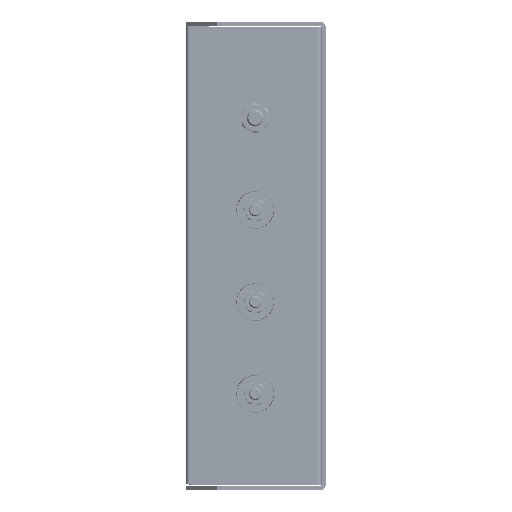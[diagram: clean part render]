
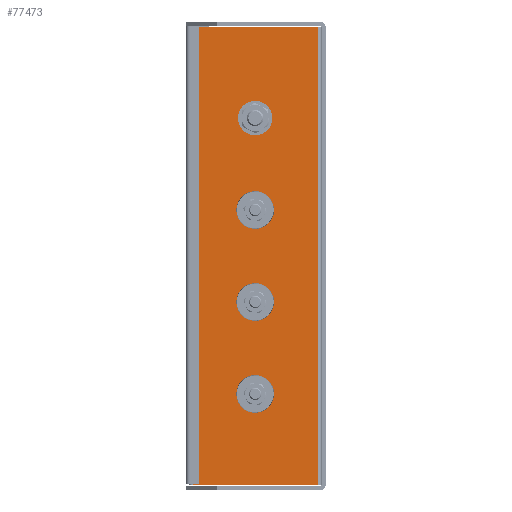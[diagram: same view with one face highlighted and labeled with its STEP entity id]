
A CAD part, left-side view. The second image highlights one B-rep face of the part: STEP entity #77473.
In plain terms, the highlighted planar face has unit normal (-1, 0, 0).
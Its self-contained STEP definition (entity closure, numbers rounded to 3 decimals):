
#73763=DIRECTION('',(0.,1.,0.));
#73764=VECTOR('',#73763,61.);
#73765=CARTESIAN_POINT('',(-30.2,-2.,-224.));
#73766=LINE('',#73765,#73764);
#74097=DIRECTION('',(0.,0.,-1.));
#74098=VECTOR('',#74097,224.);
#74099=CARTESIAN_POINT('',(-30.2,-2.,0.));
#74100=LINE('',#74099,#74098);
#74101=DIRECTION('',(0.,1.,0.));
#74102=VECTOR('',#74101,61.);
#74103=CARTESIAN_POINT('',(-30.2,-2.,0.));
#74104=LINE('',#74103,#74102);
#74105=CARTESIAN_POINT('',(-30.2,28.5,-89.5));
#74106=DIRECTION('',(1.,0.,0.));
#74107=DIRECTION('',(0.,0.,-1.));
#74108=AXIS2_PLACEMENT_3D('',#74105,#74106,#74107);
#74110=CARTESIAN_POINT('',(-30.2,28.5,-89.5));
#74111=DIRECTION('',(1.,0.,0.));
#74112=DIRECTION('',(0.,0.,1.));
#74113=AXIS2_PLACEMENT_3D('',#74110,#74111,#74112);
#74115=CARTESIAN_POINT('',(-30.2,28.5,-134.5));
#74116=DIRECTION('',(1.,0.,0.));
#74117=DIRECTION('',(0.,0.,-1.));
#74118=AXIS2_PLACEMENT_3D('',#74115,#74116,#74117);
#74120=CARTESIAN_POINT('',(-30.2,28.5,-134.5));
#74121=DIRECTION('',(1.,0.,0.));
#74122=DIRECTION('',(0.,0.,1.));
#74123=AXIS2_PLACEMENT_3D('',#74120,#74121,#74122);
#74125=CARTESIAN_POINT('',(-30.2,28.5,-179.5));
#74126=DIRECTION('',(1.,0.,0.));
#74127=DIRECTION('',(0.,0.,-1.));
#74128=AXIS2_PLACEMENT_3D('',#74125,#74126,#74127);
#74130=CARTESIAN_POINT('',(-30.2,28.5,-179.5));
#74131=DIRECTION('',(1.,0.,0.));
#74132=DIRECTION('',(0.,0.,1.));
#74133=AXIS2_PLACEMENT_3D('',#74130,#74131,#74132);
#74135=CARTESIAN_POINT('',(-30.2,28.5,-44.5));
#74136=DIRECTION('',(1.,0.,0.));
#74137=DIRECTION('',(0.,0.,-1.));
#74138=AXIS2_PLACEMENT_3D('',#74135,#74136,#74137);
#74140=CARTESIAN_POINT('',(-30.2,28.5,-44.5));
#74141=DIRECTION('',(1.,0.,0.));
#74142=DIRECTION('',(0.,0.,1.));
#74143=AXIS2_PLACEMENT_3D('',#74140,#74141,#74142);
#74145=DIRECTION('',(0.,0.,1.));
#74146=VECTOR('',#74145,224.);
#74147=CARTESIAN_POINT('',(-30.2,59.,-224.));
#74148=LINE('',#74147,#74146);
#74947=CARTESIAN_POINT('',(-30.2,28.5,-85.));
#74949=VERTEX_POINT('',#74947);
#74952=CARTESIAN_POINT('',(-30.2,28.5,-94.));
#74954=VERTEX_POINT('',#74952);
#74963=CARTESIAN_POINT('',(-30.2,28.5,-130.));
#74965=VERTEX_POINT('',#74963);
#74968=CARTESIAN_POINT('',(-30.2,28.5,-139.));
#74970=VERTEX_POINT('',#74968);
#74979=CARTESIAN_POINT('',(-30.2,28.5,-175.));
#74981=VERTEX_POINT('',#74979);
#74984=CARTESIAN_POINT('',(-30.2,28.5,-184.));
#74986=VERTEX_POINT('',#74984);
#75043=CARTESIAN_POINT('',(-30.2,28.5,-40.5));
#75045=VERTEX_POINT('',#75043);
#75048=CARTESIAN_POINT('',(-30.2,28.5,-48.5));
#75050=VERTEX_POINT('',#75048);
#75503=CARTESIAN_POINT('',(-30.2,-2.,0.));
#75504=VERTEX_POINT('',#75503);
#75505=CARTESIAN_POINT('',(-30.2,59.,0.));
#75506=VERTEX_POINT('',#75505);
#75507=CARTESIAN_POINT('',(-30.2,-2.,-224.));
#75508=VERTEX_POINT('',#75507);
#75509=CARTESIAN_POINT('',(-30.2,59.,-224.));
#75510=VERTEX_POINT('',#75509);
#77437=CARTESIAN_POINT('',(-30.2,28.5,-112.));
#77438=DIRECTION('',(1.,0.,0.));
#77439=DIRECTION('',(0.,-1.,0.));
#77440=AXIS2_PLACEMENT_3D('',#77437,#77438,#77439);
#77441=PLANE('',#77440);
#77442=ORIENTED_EDGE('',*,*,#77194,.F.);
#77443=ORIENTED_EDGE('',*,*,#77431,.T.);
#77444=ORIENTED_EDGE('',*,*,#77030,.T.);
#77446=ORIENTED_EDGE('',*,*,#77445,.T.);
#77447=EDGE_LOOP('',(#77442,#77443,#77444,#77446));
#77448=FACE_OUTER_BOUND('',#77447,.F.);
#77450=ORIENTED_EDGE('',*,*,#77449,.F.);
#77452=ORIENTED_EDGE('',*,*,#77451,.F.);
#77453=EDGE_LOOP('',(#77450,#77452));
#77454=FACE_BOUND('',#77453,.F.);
#77456=ORIENTED_EDGE('',*,*,#77455,.F.);
#77458=ORIENTED_EDGE('',*,*,#77457,.F.);
#77459=EDGE_LOOP('',(#77456,#77458));
#77460=FACE_BOUND('',#77459,.F.);
#77462=ORIENTED_EDGE('',*,*,#77461,.F.);
#77464=ORIENTED_EDGE('',*,*,#77463,.F.);
#77465=EDGE_LOOP('',(#77462,#77464));
#77466=FACE_BOUND('',#77465,.F.);
#77468=ORIENTED_EDGE('',*,*,#77467,.F.);
#77470=ORIENTED_EDGE('',*,*,#77469,.F.);
#77471=EDGE_LOOP('',(#77468,#77470));
#77472=FACE_BOUND('',#77471,.F.);
#77473=ADVANCED_FACE('',(#77448,#77454,#77460,#77466,#77472),#77441,.F.);
#74109=CIRCLE('',#74108,4.5);
#74114=CIRCLE('',#74113,4.5);
#74119=CIRCLE('',#74118,4.5);
#74124=CIRCLE('',#74123,4.5);
#74129=CIRCLE('',#74128,4.5);
#74134=CIRCLE('',#74133,4.5);
#74139=CIRCLE('',#74138,4.);
#74144=CIRCLE('',#74143,4.);
#77030=EDGE_CURVE('',#75508,#75510,#73766,.T.);
#77194=EDGE_CURVE('',#75504,#75506,#74104,.T.);
#77431=EDGE_CURVE('',#75504,#75508,#74100,.T.);
#77445=EDGE_CURVE('',#75510,#75506,#74148,.T.);
#77449=EDGE_CURVE('',#74954,#74949,#74109,.T.);
#77451=EDGE_CURVE('',#74949,#74954,#74114,.T.);
#77455=EDGE_CURVE('',#74970,#74965,#74119,.T.);
#77457=EDGE_CURVE('',#74965,#74970,#74124,.T.);
#77461=EDGE_CURVE('',#74986,#74981,#74129,.T.);
#77463=EDGE_CURVE('',#74981,#74986,#74134,.T.);
#77467=EDGE_CURVE('',#75050,#75045,#74139,.T.);
#77469=EDGE_CURVE('',#75045,#75050,#74144,.T.);
